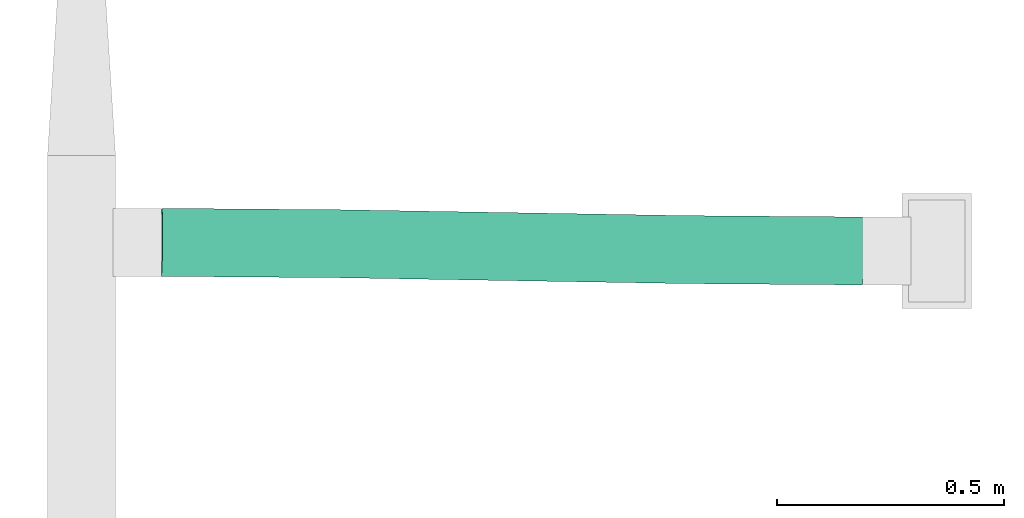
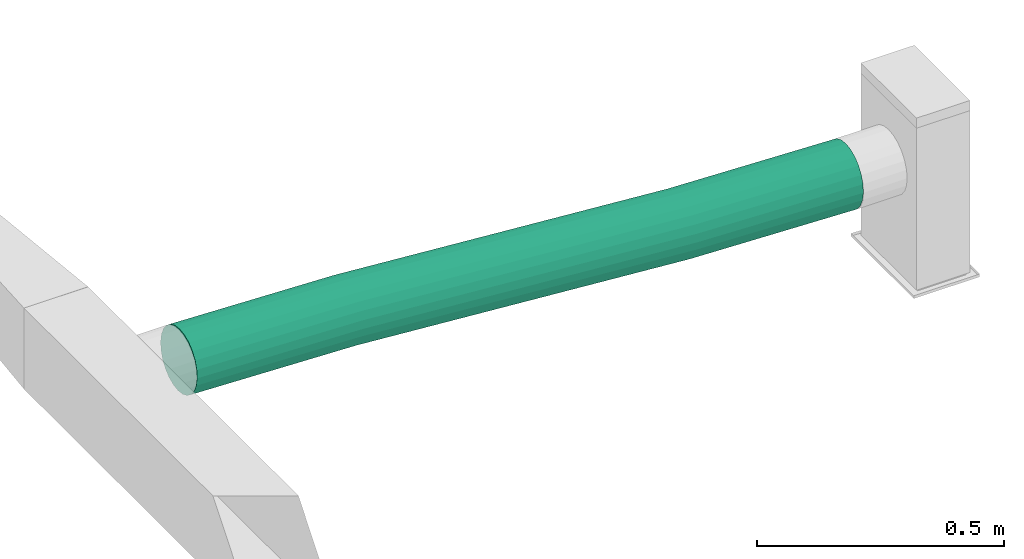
# One storey, part 40 of 60: 1 flow segment.
"""IFC2X3 building model written with IfcOpenShell, lengths in millimetres."""

from ifc_helpers import new_model, entity, si_unit, converted_unit, derived_unit, direction, frame, origin, place, context, subcontext, project, spatial, faceted_brep, type_object, element, save


model = new_model("IFC2X3")

# Units and contexts
model_context = context("Model", 3, precision=0.01, world=origin(), true_north=direction((6.123233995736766e-17, 1.0)))
body_context = subcontext(model_context, "Body", "Model", "MODEL_VIEW")
ifc_project = project(units=[si_unit("LENGTHUNIT", "METRE", prefix="MILLI"), converted_unit("PLANEANGLEUNIT", "DEGREE", entity("IfcPlaneAngleMeasure", 0.017453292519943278), si_unit("PLANEANGLEUNIT", "RADIAN"), dimensions=[0, 0, 0, 0, 0, 0, 0]), si_unit("AREAUNIT", "SQUARE_METRE"), derived_unit("THERMALTRANSMITTANCEUNIT", [(si_unit("MASSUNIT", "GRAM", prefix="KILO"), 1), (si_unit("THERMODYNAMICTEMPERATUREUNIT", "KELVIN"), -1), (si_unit("TIMEUNIT", "SECOND"), -3)])], contexts=[model_context])

# Site, building, storey
site_placement = place(None, origin())
site = spatial("IfcSite", under=ifc_project, at=site_placement, Name="Default", CompositionType="ELEMENT")
building_placement = place(site_placement, origin())
building = spatial("IfcBuilding", under=site, at=building_placement, Name="Praça Pedro II, 1301 - Centro (Sul), Teresina - PI, 64001-100", CompositionType="ELEMENT")
storey_placement = place(building_placement, frame((0.0, 0.0, 6040.0)))
storey = spatial("IfcBuildingStorey", under=building, at=storey_placement, Name="2PAV", CompositionType="ELEMENT", Elevation=6040.0)

# Flow segment
duct_segment_type = type_object("IfcDuctSegmentType", Name="Duto flexível redondo:Flexível - Redondo", PredefinedType="FLEXIBLESEGMENT")
flow_segment_placement = place(storey_placement, frame((10315.282482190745, -59979.62986521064, 2502.2031486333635)))
element("IfcFlowSegment", 1, at=flow_segment_placement, inside=storey, type_object=duct_segment_type, Name="Duto flexível redondo:Flexível - Redondo", ObjectType="Duto flexível redondo:Flexível - Redondo", context=body_context, shape_type="Brep", body=[
    faceted_brep([(1.893450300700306, 115.0273648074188, 75.38240549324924), (1.6708358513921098, 95.61707369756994, 72.82790043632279), (1.5952722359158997, 76.20565313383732, 75.38240549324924), (1.671908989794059, 58.115959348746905, 82.87183536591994), (1.8955234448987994, 42.58077507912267, 94.78579778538), (2.2508766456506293, 30.65879745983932, 110.31237590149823), (2.7137518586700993, 23.162489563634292, 128.39345907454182), (3.2526049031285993, 20.602712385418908, 147.79685136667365), (3.8307138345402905, 23.15391050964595, 167.20024365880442), (4.408681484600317, 30.64222400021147, 185.2813268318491), (4.947120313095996, 42.55733666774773, 200.80790494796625), (5.409336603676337, 58.08725327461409, 212.7218673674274), (5.763831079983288, 76.17363566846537, 220.21129724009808), (5.986445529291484, 95.58392677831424, 222.76580229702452), (6.0620091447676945, 114.99534734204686, 220.21129724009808), (5.985372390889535, 133.08504112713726, 212.7218673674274), (5.761757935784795, 148.6202253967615, 200.80790494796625), (5.4064047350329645, 160.54220301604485, 185.2813268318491), (4.9435295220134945, 168.03851091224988, 167.20024365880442), (4.404676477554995, 170.59828809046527, 147.79685136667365), (3.8265675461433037, 168.04708996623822, 128.3934590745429), (3.2485998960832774, 160.55877647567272, 110.31237590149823), (2.7101610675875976, 148.64366380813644, 94.78579778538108), (2.2479447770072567, 133.1137472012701, 82.87183536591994), (390.49725415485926, 165.07718699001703, 117.26339669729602), (389.5727518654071, 157.59153512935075, 99.19228829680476), (391.42198243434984, 167.62572283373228, 136.65681177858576), (388.7114788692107, 145.67890205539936, 83.67500275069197), (387.97212949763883, 130.1511140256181, 71.76901742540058), (387.4050891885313, 112.06636413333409, 64.28570554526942), (387.0490008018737, 92.6570981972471, 61.73504244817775), (386.92813117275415, 73.24602561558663, 64.29085160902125), (387.05071736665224, 55.155978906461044, 71.77895885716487), (387.40840533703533, 39.61976485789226, 83.68906205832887), (388.7172226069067, 20.197711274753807, 117.28260206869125), (389.57915817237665, 17.635452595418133, 136.6766946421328), (387.97681923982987, 27.696150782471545, 99.20950736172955), (390.5038864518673, 20.183988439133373, 156.0701097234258), (391.42838874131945, 27.669640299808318, 174.14121812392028), (392.2896617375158, 39.5822733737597, 189.65850367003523), (393.02901110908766, 55.11006140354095, 201.56448899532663), (393.5960514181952, 73.19481129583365, 209.04780087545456), (393.95213980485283, 92.6040772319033, 211.59846397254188), (394.0730094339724, 112.01514981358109, 209.04265481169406), (393.95042324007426, 130.10519652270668, 201.55454756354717), (393.5927352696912, 145.64141057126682, 189.64444436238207), (393.02432136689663, 157.56502464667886, 174.12399905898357), (392.2839179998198, 165.0634641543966, 156.05090435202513), (1548.7390605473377, 129.63622365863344, 23.553169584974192), (1549.2774993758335, 141.5513363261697, 39.079747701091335), (1549.8554670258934, 149.03964981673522, 57.16083087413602), (1550.433575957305, 151.59084794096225, 76.56422316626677), (1550.9724290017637, 149.03107076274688, 95.96761545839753), (1551.4353042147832, 141.53476286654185, 114.0486986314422), (1551.790657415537, 129.6127852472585, 129.57527674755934), (1552.0142718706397, 114.07760097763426, 141.4892391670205), (1552.0909086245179, 95.98790719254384, 148.9786690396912), (1552.0153450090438, 76.57648662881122, 151.53317409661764), (1551.7927305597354, 57.166195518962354, 148.9786690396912), (1551.4382360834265, 39.07981312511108, 141.4892391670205), (1550.976019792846, 23.549896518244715, 129.57527674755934), (1550.4375809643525, 11.634783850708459, 114.0486986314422), (1549.8596133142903, 4.146470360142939, 95.96761545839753), (1549.2815043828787, 1.5952722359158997, 76.56422316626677), (1548.7426513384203, 4.155049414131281, 57.16083087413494), (1548.2797761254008, 11.651357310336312, 39.079747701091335), (1547.924422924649, 23.57333492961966, 23.55316958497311), (1547.7008084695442, 39.108519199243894, 11.639207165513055), (1547.624171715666, 57.198212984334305, 4.149777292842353), (1547.6997353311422, 76.60963354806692, 1.5952722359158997), (1547.9223497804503, 96.0199246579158, 4.149777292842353), (1548.2768442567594, 114.10630705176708, 11.639207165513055), (776.8385333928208, 158.54340042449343, 92.77725940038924), (1163.1822944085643, 152.00957188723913, 68.29096480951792), (1162.257792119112, 144.52392002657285, 50.219856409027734), (775.568086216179, 151.06359916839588, 74.7280768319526), (778.1092911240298, 161.08608423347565, 112.14874328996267), (1164.107022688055, 154.55810773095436, 87.68437989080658), (1161.3965191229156, 132.61128695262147, 34.702570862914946), (774.3845284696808, 139.15641655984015, 59.23121754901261), (773.3685176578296, 123.63330741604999, 47.34276690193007), (1160.6571697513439, 117.0834989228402, 22.79658553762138), (1160.0901294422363, 98.99874903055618, 15.313273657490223), (772.5892932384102, 105.55214597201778, 39.87290315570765), (1159.7340410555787, 79.58948309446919, 12.76261056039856), (772.0999580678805, 86.14513349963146, 37.3306851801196), (1159.6131714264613, 60.17841051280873, 15.318419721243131), (771.93385952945, 66.7348258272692, 39.889360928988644), (1159.7357576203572, 42.08836380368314, 22.806526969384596), (772.1023169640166, 48.64400334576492, 47.37456087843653), (772.5938502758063, 33.105525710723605, 59.27618102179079), (1160.0934455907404, 26.552149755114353, 34.716630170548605), (773.3749622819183, 21.17831449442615, 74.78314561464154), (1160.6618594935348, 14.628535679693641, 50.23707547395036), (1161.4022628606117, 7.130096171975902, 68.31017018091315), (774.3924214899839, 13.675189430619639, 92.8386806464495), (1162.2641984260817, 4.567837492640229, 87.70426275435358), (775.576889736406, 11.107476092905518, 112.21233124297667), (1163.1889267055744, 7.116373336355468, 107.09767783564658), (776.847647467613, 13.650159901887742, 131.58381513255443), (1164.1134289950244, 14.602025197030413, 125.16878623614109), (778.1180946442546, 21.12996115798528, 149.6329977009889), (779.3016523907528, 33.03714376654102, 165.12985698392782), (1164.9747019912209, 26.514658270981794, 140.68607178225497), (780.3176632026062, 48.56025291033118, 177.01830763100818), (1165.7140513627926, 42.042446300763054, 152.59205710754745), (1166.2810916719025, 60.12719619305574, 160.07536898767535), (781.0968876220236, 66.64141435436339, 184.48817137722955), (1166.6371800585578, 79.53646212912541, 162.62603208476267), (781.5862227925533, 86.04842682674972, 187.0303893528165), (1166.7580496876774, 98.9475347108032, 160.07022292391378), (781.7523213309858, 105.45873449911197, 184.47171360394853), (1166.6354634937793, 117.03758141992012, 152.58211567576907), (781.5838638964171, 123.54955698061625, 176.98651365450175), (1166.2777755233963, 132.5737954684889, 140.67201247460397), (781.0923305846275, 139.08803461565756, 165.08489351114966), (780.3112185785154, 151.015245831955, 149.57792891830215), (1165.7093616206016, 144.49740954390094, 125.15156717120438), (1164.9689582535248, 151.9958490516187, 107.07847246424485), (779.2937593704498, 158.51837089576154, 131.52239388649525)], [[[0, 1, 2, 3, 4, 5, 6, 7, 8, 9, 10, 11, 12, 13, 14, 15, 16, 17, 18, 19, 20, 21, 22, 23]], [[24, 25, 21, 20]], [[26, 24, 20, 19]], [[21, 25, 27, 22]], [[28, 29, 0, 23]], [[28, 23, 22, 27]], [[30, 1, 0, 29]], [[31, 32, 3, 2]], [[30, 31, 2, 1]], [[32, 33, 4, 3]], [[34, 35, 7, 6]], [[36, 34, 6, 5]], [[33, 36, 5, 4]], [[8, 7, 35, 37]], [[9, 8, 37, 38]], [[38, 39, 10, 9]], [[12, 11, 40, 41]], [[13, 12, 41, 42]], [[39, 40, 11, 10]], [[14, 13, 42, 43]], [[14, 43, 44, 15]], [[15, 44, 45, 16]], [[16, 45, 46, 17]], [[17, 46, 47, 18]], [[26, 19, 18, 47]], [[48, 49, 50, 51, 52, 53, 54, 55, 56, 57, 58, 59, 60, 61, 62, 63, 64, 65, 66, 67, 68, 69, 70, 71]], [[72, 73, 74, 75, 25, 24]], [[76, 77, 73, 72, 24, 26]], [[27, 25, 75, 74, 78, 79]], [[29, 28, 80, 81, 82, 83]], [[30, 29, 83, 82, 84, 85]], [[79, 78, 81, 80, 28, 27]], [[31, 30, 85, 84, 86, 87]], [[31, 87, 86, 88, 89, 32]], [[90, 33, 32, 89, 88, 91]], [[36, 92, 93, 94, 95, 34]], [[34, 95, 94, 96, 97, 35]], [[92, 36, 33, 90, 91, 93]], [[35, 97, 96, 98, 99, 37]], [[37, 99, 98, 100, 101, 38]], [[102, 39, 38, 101, 100, 103]], [[40, 104, 105, 106, 107, 41]], [[41, 107, 106, 108, 109, 42]], [[104, 40, 39, 102, 103, 105]], [[42, 109, 108, 110, 111, 43]], [[44, 43, 111, 110, 112, 113]], [[113, 112, 114, 115, 45, 44]], [[47, 46, 116, 117, 118, 119]], [[26, 47, 119, 118, 77, 76]], [[115, 114, 117, 116, 46, 45]], [[50, 49, 74, 73]], [[51, 50, 73, 77]], [[48, 78, 74, 49]], [[81, 71, 70, 82]], [[82, 70, 69, 84]], [[71, 81, 78, 48]], [[84, 69, 68, 86]], [[88, 86, 68, 67]], [[67, 66, 91, 88]], [[94, 93, 65, 64]], [[96, 94, 64, 63]], [[66, 65, 93, 91]], [[98, 96, 63, 62]], [[100, 98, 62, 61]], [[103, 100, 61, 60]], [[106, 105, 59, 58]], [[108, 106, 58, 57]], [[60, 59, 105, 103]], [[110, 108, 57, 56]], [[110, 56, 55, 112]], [[54, 114, 112, 55]], [[117, 53, 52, 118]], [[118, 52, 51, 77]], [[53, 117, 114, 54]]]),
])

save(model, "model.ifc")
